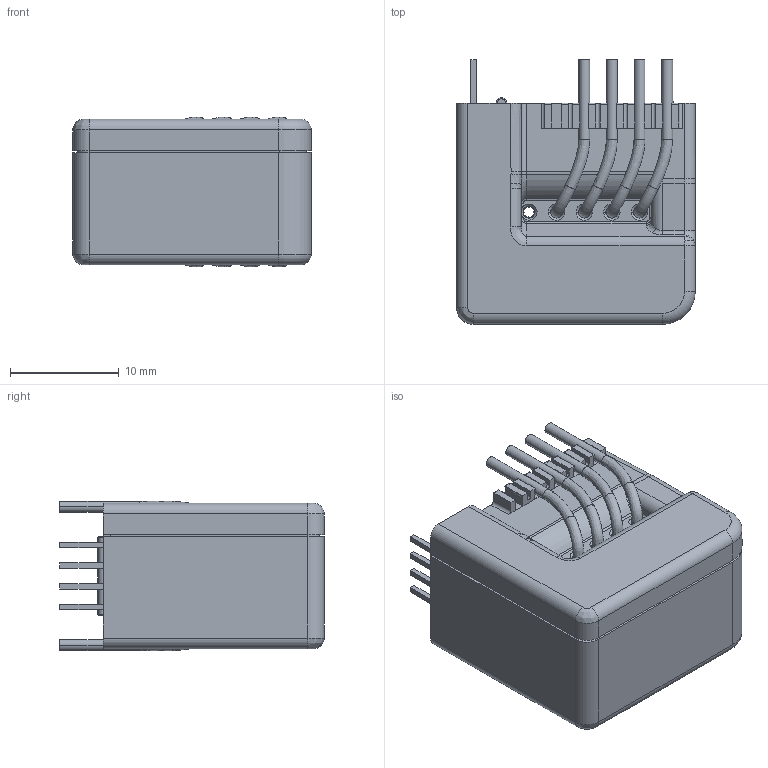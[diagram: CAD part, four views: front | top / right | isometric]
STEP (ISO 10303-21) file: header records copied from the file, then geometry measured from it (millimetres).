
FILE_DESCRIPTION((''),'2;1');
FILE_NAME('LKSR_15_NP','2022-10-13T10:54:56',(''),('PTC'),'CREO PARAMETRIC BY PTC INC, 18.00','CREO PARAMETRIC BY PTC INC, 18.00','');
FILE_SCHEMA(('CONFIG_CONTROL_DESIGN'));
Length unit declared in the file: millimetre
Products named in the file (1): LKSR_15_NP
Bounding box: 21.92 x 24.3 x 13.76 mm (x, y, z)
Volume: 5460.5 mm3; surface area: 2800.1 mm2
Topology: 1 solids, 1 shells, 676 faces, 1861 edges, 1192 vertices
Faces by surface type: plane 360, cylinder 179, bspline 91, cone 28, torus 14, sphere 4
Entity records: 29602 total; most frequent: CARTESIAN_POINT 12913, ORIENTED_EDGE 3710, DIRECTION 3154, EDGE_CURVE 1855, VERTEX_POINT 1192, VECTOR 1142, LINE 1142, AXIS2_PLACEMENT_3D 1006
